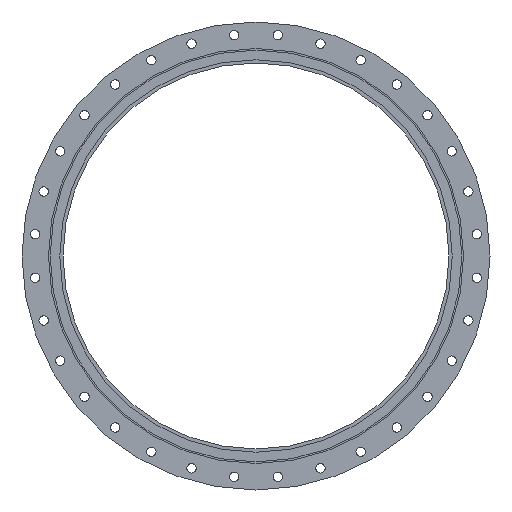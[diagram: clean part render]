
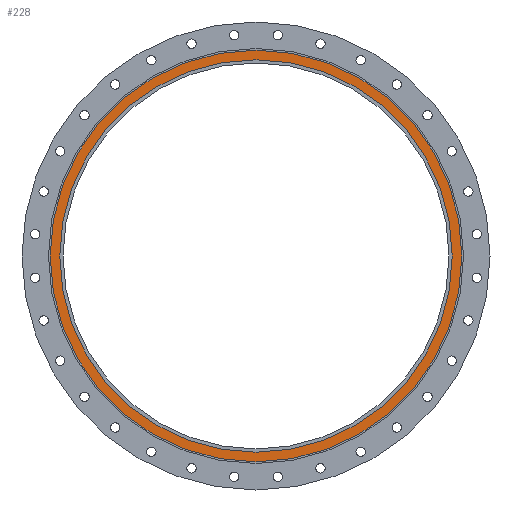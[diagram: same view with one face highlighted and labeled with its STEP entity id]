
A CAD part, left-side view. The second image highlights one B-rep face of the part: STEP entity #228.
In plain terms, the highlighted planar face has unit normal (-1, 0, 0).
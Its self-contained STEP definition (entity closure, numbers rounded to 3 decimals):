
#228=ADVANCED_FACE('',(#8467,#8469),#8471,.T.);
#8467=FACE_BOUND('',#8468,.T.);
#8468=EDGE_LOOP('',(#16021,#16022));
#8469=FACE_BOUND('',#8470,.T.);
#8470=EDGE_LOOP('',(#16023,#16024));
#8471=PLANE('',#8472);
#8472=AXIS2_PLACEMENT_3D('',#8473,#8474,#8475);
#8473=CARTESIAN_POINT('',(2061.615,22.296,0.));
#8474=DIRECTION('',(-1.,0.,0.));
#8475=DIRECTION('',(0.,0.,1.));
#16021=ORIENTED_EDGE('',*,*,#21225,.F.);
#16022=ORIENTED_EDGE('',*,*,#21226,.F.);
#16023=ORIENTED_EDGE('',*,*,#21223,.T.);
#16024=ORIENTED_EDGE('',*,*,#21224,.T.);
#21223=EDGE_CURVE('',#24685,#24686,#24687,.T.);
#21224=EDGE_CURVE('',#24686,#24685,#24688,.T.);
#21225=EDGE_CURVE('',#24689,#24690,#24691,.T.);
#21226=EDGE_CURVE('',#24690,#24689,#24692,.T.);
#24685=VERTEX_POINT('',#33015);
#24686=VERTEX_POINT('',#33016);
#24687=CIRCLE('',#33017,610.);
#24688=CIRCLE('',#33021,610.);
#24689=VERTEX_POINT('',#33025);
#24690=VERTEX_POINT('',#33026);
#24691=CIRCLE('',#33027,640.);
#24692=CIRCLE('',#33031,640.);
#33015=CARTESIAN_POINT('',(2061.615,52.296,0.));
#33016=CARTESIAN_POINT('',(2061.615,1272.296,0.));
#33017=AXIS2_PLACEMENT_3D('',#33018,#33019,#33020);
#33018=CARTESIAN_POINT('',(2061.615,662.296,0.));
#33019=DIRECTION('',(1.,0.,0.));
#33020=DIRECTION('',(0.,-1.,0.));
#33021=AXIS2_PLACEMENT_3D('',#33022,#33023,#33024);
#33022=CARTESIAN_POINT('',(2061.615,662.296,0.));
#33023=DIRECTION('',(1.,0.,0.));
#33024=DIRECTION('',(0.,1.,0.));
#33025=CARTESIAN_POINT('',(2061.615,1302.296,0.));
#33026=CARTESIAN_POINT('',(2061.615,22.296,0.));
#33027=AXIS2_PLACEMENT_3D('',#33028,#33029,#33030);
#33028=CARTESIAN_POINT('',(2061.615,662.296,0.));
#33029=DIRECTION('',(1.,0.,0.));
#33030=DIRECTION('',(0.,1.,0.));
#33031=AXIS2_PLACEMENT_3D('',#33032,#33033,#33034);
#33032=CARTESIAN_POINT('',(2061.615,662.296,0.));
#33033=DIRECTION('',(1.,0.,0.));
#33034=DIRECTION('',(0.,-1.,0.));
